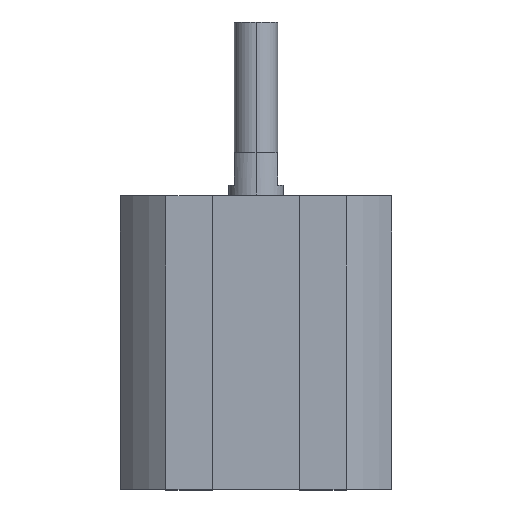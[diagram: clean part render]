
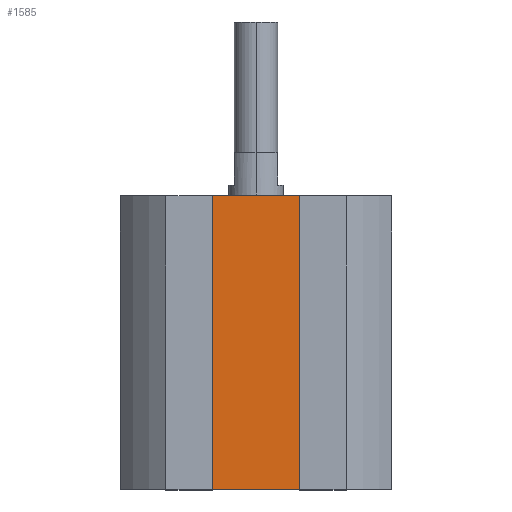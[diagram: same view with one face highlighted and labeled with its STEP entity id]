
A CAD part, top view. The second image highlights one B-rep face of the part: STEP entity #1585.
In plain terms, the highlighted planar face has unit normal (0, 0, 1).
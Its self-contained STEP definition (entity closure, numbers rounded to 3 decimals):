
#34 = VECTOR ( 'NONE', #497, 1000. ) ;
#45 = VERTEX_POINT ( 'NONE', #1279 ) ;
#75 = DIRECTION ( 'NONE',  ( 0., 1., 0. ) ) ;
#78 = DIRECTION ( 'NONE',  ( 1., 0., 0. ) ) ;
#217 = LINE ( 'NONE', #2163, #498 ) ;
#232 = VERTEX_POINT ( 'NONE', #645 ) ;
#300 = CARTESIAN_POINT ( 'NONE',  ( 4., -27., 7.8 ) ) ;
#374 = VERTEX_POINT ( 'NONE', #2087 ) ;
#497 = DIRECTION ( 'NONE',  ( 1., 0., 0. ) ) ;
#498 = VECTOR ( 'NONE', #1970, 1000. ) ;
#539 = ORIENTED_EDGE ( 'NONE', *, *, #983, .F. ) ;
#645 = CARTESIAN_POINT ( 'NONE',  ( -4., -27., 7.8 ) ) ;
#805 = PLANE ( 'NONE',  #1802 ) ;
#830 = EDGE_LOOP ( 'NONE', ( #913, #539, #1293, #1792 ) ) ;
#899 = VECTOR ( 'NONE', #75, 1000. ) ;
#913 = ORIENTED_EDGE ( 'NONE', *, *, #1261, .F. ) ;
#982 = CARTESIAN_POINT ( 'NONE',  ( 0., -27., 7.8 ) ) ;
#983 = EDGE_CURVE ( 'NONE', #232, #45, #1977, .T. ) ;
#1135 = VERTEX_POINT ( 'NONE', #300 ) ;
#1147 = DIRECTION ( 'NONE',  ( 0., 1., 0. ) ) ;
#1261 = EDGE_CURVE ( 'NONE', #45, #374, #1701, .T. ) ;
#1279 = CARTESIAN_POINT ( 'NONE',  ( -4., 0., 7.8 ) ) ;
#1293 = ORIENTED_EDGE ( 'NONE', *, *, #2121, .T. ) ;
#1319 = DIRECTION ( 'NONE',  ( 0., 0., 1. ) ) ;
#1533 = EDGE_CURVE ( 'NONE', #1135, #374, #2036, .T. ) ;
#1585 = ADVANCED_FACE ( 'NONE', ( #2147 ), #805, .T. ) ;
#1700 = VECTOR ( 'NONE', #1147, 1000. ) ;
#1701 = LINE ( 'NONE', #2081, #34 ) ;
#1792 = ORIENTED_EDGE ( 'NONE', *, *, #1533, .T. ) ;
#1802 = AXIS2_PLACEMENT_3D ( 'NONE', #982, #1319, #78 ) ;
#1970 = DIRECTION ( 'NONE',  ( 1., 0., 0. ) ) ;
#1977 = LINE ( 'NONE', #2185, #899 ) ;
#1984 = CARTESIAN_POINT ( 'NONE',  ( 4., -27., 7.8 ) ) ;
#2036 = LINE ( 'NONE', #1984, #1700 ) ;
#2081 = CARTESIAN_POINT ( 'NONE',  ( 0., 0., 7.8 ) ) ;
#2087 = CARTESIAN_POINT ( 'NONE',  ( 4., 0., 7.8 ) ) ;
#2121 = EDGE_CURVE ( 'NONE', #232, #1135, #217, .T. ) ;
#2147 = FACE_OUTER_BOUND ( 'NONE', #830, .T. ) ;
#2163 = CARTESIAN_POINT ( 'NONE',  ( 0., -27., 7.8 ) ) ;
#2185 = CARTESIAN_POINT ( 'NONE',  ( -4., -27., 7.8 ) ) ;
